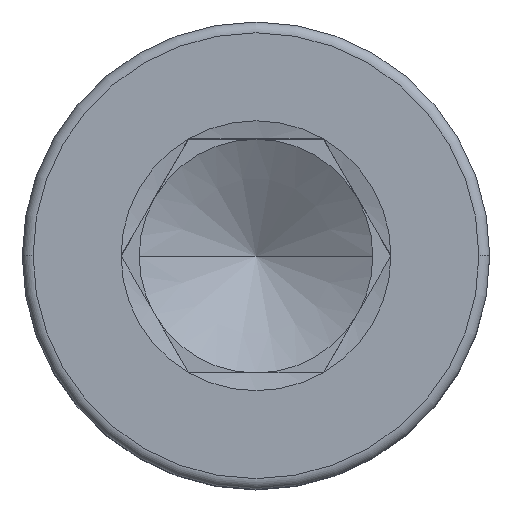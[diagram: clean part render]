
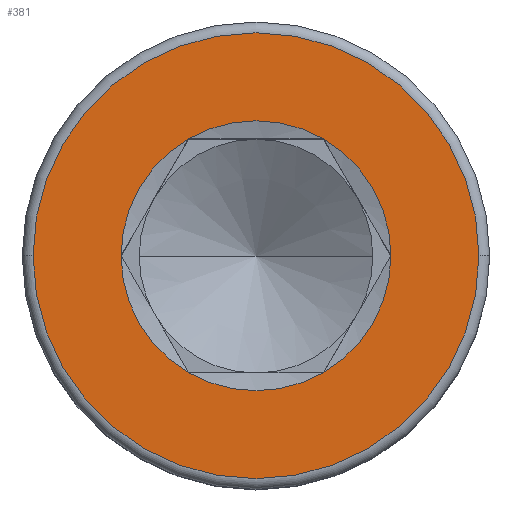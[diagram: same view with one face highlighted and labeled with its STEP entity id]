
A CAD part, top view. The second image highlights one B-rep face of the part: STEP entity #381.
In plain terms, the highlighted planar face has unit normal (0, 0, 1).
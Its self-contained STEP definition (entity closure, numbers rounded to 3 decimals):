
#13 = EDGE_LOOP ( 'NONE', ( #1307, #1515, #1078, #289, #98, #400 ) ) ;
#49 = VERTEX_POINT ( 'NONE', #1435 ) ;
#74 = FACE_OUTER_BOUND ( 'NONE', #357, .T. ) ;
#98 = ORIENTED_EDGE ( 'NONE', *, *, #1490, .F. ) ;
#106 = CARTESIAN_POINT ( 'NONE',  ( 2.309, 4., 10. ) ) ;
#108 = CARTESIAN_POINT ( 'NONE',  ( 0., 0., 10. ) ) ;
#126 = CIRCLE ( 'NONE', #1563, 4.619 ) ;
#129 = EDGE_CURVE ( 'NONE', #677, #49, #440, .T. ) ;
#150 = CIRCLE ( 'NONE', #753, 4.619 ) ;
#180 = AXIS2_PLACEMENT_3D ( 'NONE', #335, #976, #183 ) ;
#183 = DIRECTION ( 'NONE',  ( 1., 0., 0. ) ) ;
#229 = DIRECTION ( 'NONE',  ( 0., 0., 1. ) ) ;
#267 = CARTESIAN_POINT ( 'NONE',  ( 0., 0., 10. ) ) ;
#289 = ORIENTED_EDGE ( 'NONE', *, *, #657, .F. ) ;
#296 = AXIS2_PLACEMENT_3D ( 'NONE', #1440, #772, #366 ) ;
#300 = CARTESIAN_POINT ( 'NONE',  ( -2.309, 4., 10. ) ) ;
#330 = CARTESIAN_POINT ( 'NONE',  ( 0., 0., 10. ) ) ;
#335 = CARTESIAN_POINT ( 'NONE',  ( 0., 0., 10. ) ) ;
#336 = EDGE_CURVE ( 'NONE', #49, #677, #986, .T. ) ;
#357 = EDGE_LOOP ( 'NONE', ( #1197, #1744 ) ) ;
#366 = DIRECTION ( 'NONE',  ( 1., 0., 0. ) ) ;
#381 = ADVANCED_FACE ( 'NONE', ( #74, #503 ), #920, .T. ) ;
#384 = DIRECTION ( 'NONE',  ( 1., 0., 0. ) ) ;
#400 = ORIENTED_EDGE ( 'NONE', *, *, #752, .F. ) ;
#427 = EDGE_CURVE ( 'NONE', #655, #1724, #1479, .T. ) ;
#440 = CIRCLE ( 'NONE', #1766, 7.63 ) ;
#445 = CIRCLE ( 'NONE', #1558, 4.619 ) ;
#446 = CIRCLE ( 'NONE', #180, 4.619 ) ;
#498 = CARTESIAN_POINT ( 'NONE',  ( 4.619, 0., 10. ) ) ;
#503 = FACE_BOUND ( 'NONE', #13, .T. ) ;
#576 = CARTESIAN_POINT ( 'NONE',  ( 0., 0., 10. ) ) ;
#585 = DIRECTION ( 'NONE',  ( 0., 0., 1. ) ) ;
#655 = VERTEX_POINT ( 'NONE', #793 ) ;
#657 = EDGE_CURVE ( 'NONE', #1426, #1190, #445, .T. ) ;
#668 = AXIS2_PLACEMENT_3D ( 'NONE', #903, #229, #384 ) ;
#677 = VERTEX_POINT ( 'NONE', #813 ) ;
#739 = DIRECTION ( 'NONE',  ( 1., 0., 0. ) ) ;
#752 = EDGE_CURVE ( 'NONE', #1783, #1597, #150, .T. ) ;
#753 = AXIS2_PLACEMENT_3D ( 'NONE', #330, #877, #739 ) ;
#772 = DIRECTION ( 'NONE',  ( 0., 0., 1. ) ) ;
#793 = CARTESIAN_POINT ( 'NONE',  ( 2.309, -4., 10. ) ) ;
#813 = CARTESIAN_POINT ( 'NONE',  ( 7.63, 0., 10. ) ) ;
#877 = DIRECTION ( 'NONE',  ( 0., 0., 1. ) ) ;
#903 = CARTESIAN_POINT ( 'NONE',  ( 0., 0., 10. ) ) ;
#920 = PLANE ( 'NONE',  #296 ) ;
#935 = DIRECTION ( 'NONE',  ( 1., 0., 0. ) ) ;
#973 = DIRECTION ( 'NONE',  ( 0., 0., 1. ) ) ;
#976 = DIRECTION ( 'NONE',  ( 0., 0., 1. ) ) ;
#980 = DIRECTION ( 'NONE',  ( 0., 0., 1. ) ) ;
#986 = CIRCLE ( 'NONE', #1331, 7.63 ) ;
#1044 = EDGE_CURVE ( 'NONE', #1190, #655, #446, .T. ) ;
#1075 = DIRECTION ( 'NONE',  ( 1., 0., 0. ) ) ;
#1078 = ORIENTED_EDGE ( 'NONE', *, *, #1044, .F. ) ;
#1102 = CARTESIAN_POINT ( 'NONE',  ( -4.619, 0., 10. ) ) ;
#1123 = DIRECTION ( 'NONE',  ( 1., 0., 0. ) ) ;
#1131 = DIRECTION ( 'NONE',  ( 1., 0., 0. ) ) ;
#1190 = VERTEX_POINT ( 'NONE', #1615 ) ;
#1197 = ORIENTED_EDGE ( 'NONE', *, *, #129, .T. ) ;
#1219 = DIRECTION ( 'NONE',  ( 0., 0., 1. ) ) ;
#1221 = AXIS2_PLACEMENT_3D ( 'NONE', #1556, #585, #1131 ) ;
#1307 = ORIENTED_EDGE ( 'NONE', *, *, #1378, .F. ) ;
#1331 = AXIS2_PLACEMENT_3D ( 'NONE', #576, #980, #1123 ) ;
#1336 = CIRCLE ( 'NONE', #1221, 4.619 ) ;
#1345 = DIRECTION ( 'NONE',  ( 0., 0., 1. ) ) ;
#1378 = EDGE_CURVE ( 'NONE', #1724, #1783, #126, .T. ) ;
#1426 = VERTEX_POINT ( 'NONE', #1102 ) ;
#1435 = CARTESIAN_POINT ( 'NONE',  ( -7.63, 0., 10. ) ) ;
#1440 = CARTESIAN_POINT ( 'NONE',  ( 0., 0., 10. ) ) ;
#1479 = CIRCLE ( 'NONE', #668, 4.619 ) ;
#1490 = EDGE_CURVE ( 'NONE', #1597, #1426, #1336, .T. ) ;
#1515 = ORIENTED_EDGE ( 'NONE', *, *, #427, .F. ) ;
#1556 = CARTESIAN_POINT ( 'NONE',  ( 0., 0., 10. ) ) ;
#1558 = AXIS2_PLACEMENT_3D ( 'NONE', #108, #1219, #1075 ) ;
#1563 = AXIS2_PLACEMENT_3D ( 'NONE', #267, #973, #1627 ) ;
#1597 = VERTEX_POINT ( 'NONE', #300 ) ;
#1615 = CARTESIAN_POINT ( 'NONE',  ( -2.309, -4., 10. ) ) ;
#1620 = CARTESIAN_POINT ( 'NONE',  ( 0., 0., 10. ) ) ;
#1627 = DIRECTION ( 'NONE',  ( 1., 0., 0. ) ) ;
#1724 = VERTEX_POINT ( 'NONE', #498 ) ;
#1744 = ORIENTED_EDGE ( 'NONE', *, *, #336, .T. ) ;
#1766 = AXIS2_PLACEMENT_3D ( 'NONE', #1620, #1345, #935 ) ;
#1783 = VERTEX_POINT ( 'NONE', #106 ) ;
